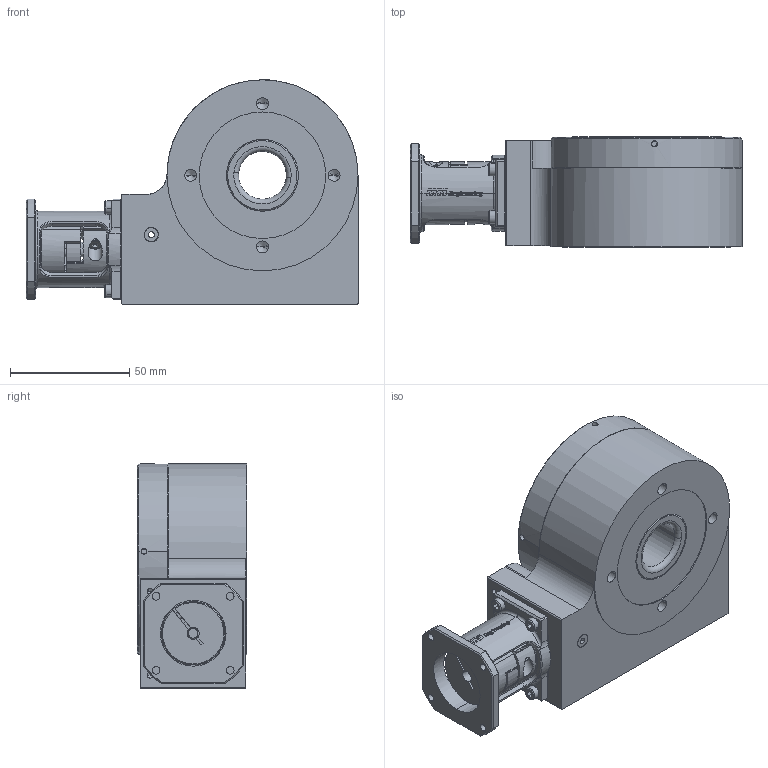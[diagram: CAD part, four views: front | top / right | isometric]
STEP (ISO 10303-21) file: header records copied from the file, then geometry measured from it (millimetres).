
FILE_DESCRIPTION (( 'STEP AP203' ), '1' );
FILE_NAME ('MDT36012-B.STEP', '2015-12-15T07:53:46', ( '' ), ( '' ), 'SwSTEP 2.0', 'SolidWorks 2014', '' );
FILE_SCHEMA (( 'CONFIG_CONTROL_DESIGN' ));
Length unit declared in the file: millimetre
Products named in the file (3): MDT36012-000-01-Gehäuse-komplett; MDT36012-000-02-Drehscheibe-komplett; MDT36012-B
Assembly tree (2 placements, depth 2):
  MDT36012-B
    MDT36012-000-01-Gehäuse-komplett
    MDT36012-000-02-Drehscheibe-komplett
Bounding box: 139 x 46 x 94 mm (x, y, z)
Volume: 295859.8 mm3; surface area: 98390.1 mm2
Topology: 6 solids, 22 shells, 1616 faces, 4188 edges, 2675 vertices
Faces by surface type: cylinder 593, plane 445, bspline 311, cone 179, torus 88
Entity records: 64957 total; most frequent: CARTESIAN_POINT 27723, ORIENTED_EDGE 8284, DIRECTION 6730, EDGE_CURVE 4142, VERTEX_POINT 2675, AXIS2_PLACEMENT_3D 2655, EDGE_LOOP 1823, ADVANCED_FACE 1616
